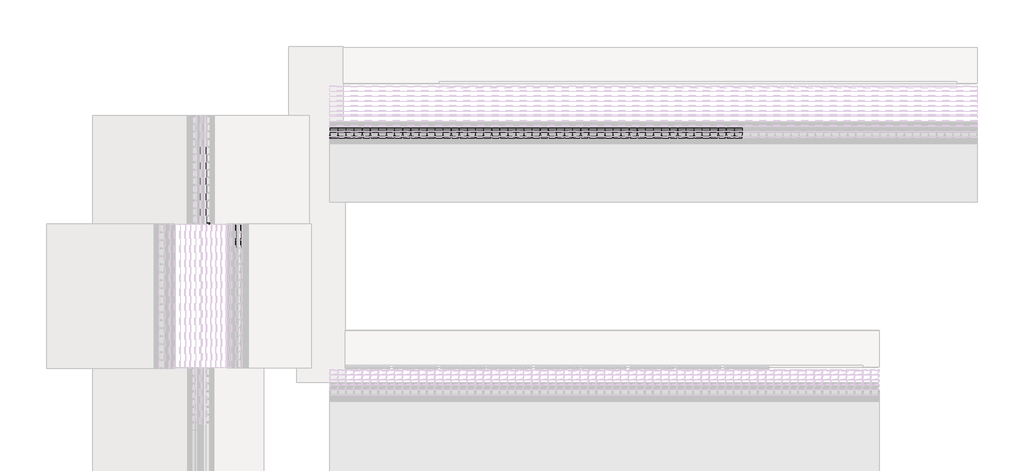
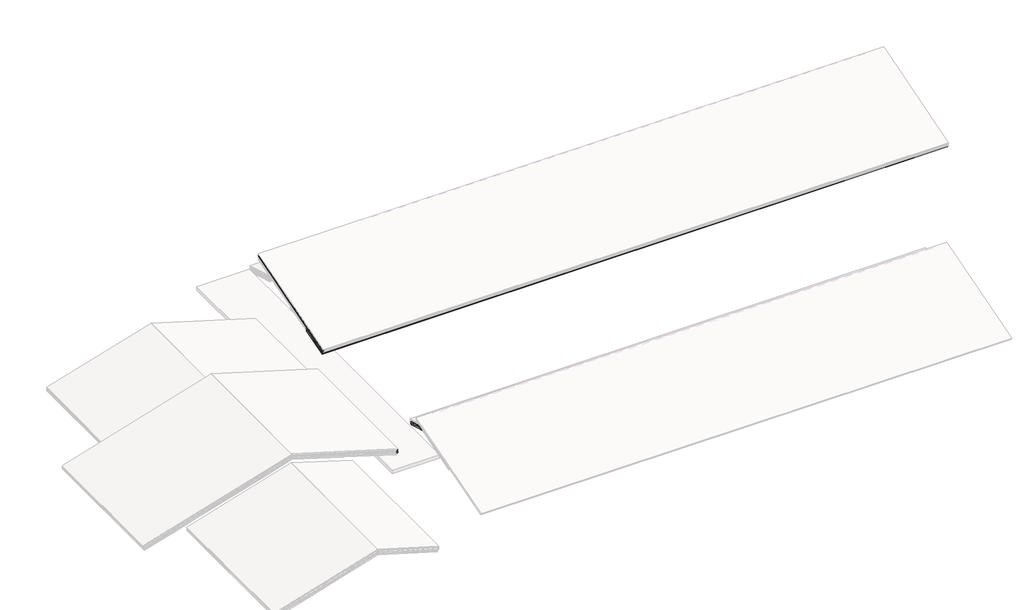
# One storey, part 42 of 57: 106 plates, 15 members.
"""IFC4 building model written with IfcOpenShell, lengths in millimetres."""

from ifc_helpers import new_model, si_unit, origin, place, context, project, spatial, transform, mapped, element, save
from components import rectangular_mullion_f14c8d41, rectangular_mullion_19773bea, rectangular_mullion_a06eaca0, rectangular_mullion_04d0059c, rectangular_mullion_caibro_31aaa4d9, rectangular_mullion_caibro_7f7f9841, empty_system_panel_vazio_e755573b, empty_system_panel_vazio_29520a4c, empty_system_panel_vazio_700aa425, empty_system_panel_vazio_8cae14d4, empty_system_panel_vazio_a4060a7b, empty_system_panel_vazio_9a4384e5, empty_system_panel_vazio_a15e6491, empty_system_panel_vazio_a828c135, empty_system_panel_vazio_0a59da35, empty_system_panel_vazio_2971b7ce

model = new_model("IFC4")

# Units and contexts
model_context = context("Model", 3, world=origin())
ifc_project = project(units=[si_unit("LENGTHUNIT", "METRE", prefix="MILLI")], contexts=[model_context])

# Site, building, storey
site = spatial("IfcSite", under=ifc_project)
building = spatial("IfcBuilding", under=site)
storey = spatial("IfcBuildingStorey", under=building, Name="Nível 2", Elevation=4100.0)

# Members
placement = place(None, origin())
rectangular_mullion_shape = rectangular_mullion_f14c8d41(model_context)
element("IfcMember", 1, ObjectType="Rectangular Mullion : Ripa", at=placement, inside=storey, context=model_context, shape_type="MappedRepresentation", body=[
    mapped(rectangular_mullion_shape, transform((1726.5285525, 28412.5318827, 3950.432489), x_axis=(0.0, 0.9578262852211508, 0.2873478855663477), y_axis=(0.0, 0.2873478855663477, -0.9578262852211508), z_axis=(-1.0, 0.0, 0.0))),
])
element("IfcMember", 2, ObjectType="Rectangular Mullion : Ripa", at=placement, inside=storey, context=model_context, shape_type="MappedRepresentation", body=[
    mapped(rectangular_mullion_shape, transform((1726.5285525, 28782.8959727, 4061.5417159), x_axis=(0.0, 0.9578262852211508, 0.2873478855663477), y_axis=(0.0, 0.2873478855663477, -0.9578262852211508), z_axis=(-1.0, 0.0, 0.0))),
])
element("IfcMember", 3, ObjectType="Rectangular Mullion : Ripa", at=placement, inside=storey, context=model_context, shape_type="MappedRepresentation", body=[
    mapped(rectangular_mullion_shape, transform((1726.5285525, 29153.2600626, 4172.6509429), x_axis=(0.0, 0.9578262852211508, 0.2873478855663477), y_axis=(0.0, 0.2873478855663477, -0.9578262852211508), z_axis=(-1.0, 0.0, 0.0))),
])
element("IfcMember", 4, ObjectType="Rectangular Mullion : Ripa", at=placement, inside=storey, context=model_context, shape_type="MappedRepresentation", body=[
    mapped(rectangular_mullion_shape, transform((1726.5285525, 29523.6241525, 4283.7601699), x_axis=(0.0, 0.9578262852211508, 0.2873478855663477), y_axis=(0.0, 0.2873478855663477, -0.9578262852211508), z_axis=(-1.0, 0.0, 0.0))),
])
element("IfcMember", 5, ObjectType="Rectangular Mullion : Ripa", at=placement, inside=storey, context=model_context, shape_type="MappedRepresentation", body=[
    mapped(rectangular_mullion_shape, transform((1726.5285525, 29893.9882424, 4394.8693969), x_axis=(0.0, 0.9578262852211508, 0.2873478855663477), y_axis=(0.0, 0.2873478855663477, -0.9578262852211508), z_axis=(-1.0, 0.0, 0.0))),
])
element("IfcMember", 6, ObjectType="Rectangular Mullion : Ripa", at=placement, inside=storey, context=model_context, shape_type="MappedRepresentation", body=[
    mapped(rectangular_mullion_shape, transform((1726.5285525, 30264.3523323, 4505.9786238), x_axis=(0.0, 0.9578262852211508, 0.2873478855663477), y_axis=(0.0, 0.2873478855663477, -0.9578262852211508), z_axis=(-1.0, 0.0, 0.0))),
])
element("IfcMember", 7, ObjectType="Rectangular Mullion : Ripa", at=placement, inside=storey, context=model_context, shape_type="MappedRepresentation", body=[
    mapped(rectangular_mullion_shape, transform((1726.5285525, 30634.7164222, 4617.0878508), x_axis=(0.0, 0.9578262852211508, 0.2873478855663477), y_axis=(0.0, 0.2873478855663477, -0.9578262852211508), z_axis=(-1.0, 0.0, 0.0))),
])
element("IfcMember", 8, ObjectType="Rectangular Mullion : Ripa", at=placement, inside=storey, context=model_context, shape_type="MappedRepresentation", body=[
    mapped(rectangular_mullion_shape, transform((1726.5285525, 31005.0805121, 4728.1970778), x_axis=(0.0, 0.9578262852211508, 0.2873478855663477), y_axis=(0.0, 0.2873478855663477, -0.9578262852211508), z_axis=(-1.0, 0.0, 0.0))),
])
element("IfcMember", 9, ObjectType="Rectangular Mullion : Ripa", at=placement, inside=storey, context=model_context, shape_type="MappedRepresentation", body=[
    mapped(rectangular_mullion_shape, transform((1726.5285525, 31375.4446021, 4839.3063048), x_axis=(0.0, 0.9578262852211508, 0.2873478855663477), y_axis=(0.0, 0.2873478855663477, -0.9578262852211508), z_axis=(-1.0, 0.0, 0.0))),
])
element("IfcMember", 10, ObjectType="Rectangular Mullion : Ripa", at=placement, inside=storey, context=model_context, shape_type="MappedRepresentation", body=[
    mapped(rectangular_mullion_shape, transform((1726.5285525, 31745.808692, 4950.4155317), x_axis=(0.0, 0.9578262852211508, 0.2873478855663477), y_axis=(0.0, 0.2873478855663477, -0.9578262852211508), z_axis=(-1.0, 0.0, 0.0))),
])
rectangular_mullion_2_shape = rectangular_mullion_19773bea(model_context)
element("IfcMember", 11, ObjectType="Rectangular Mullion : Terça", at=placement, inside=storey, context=model_context, shape_type="MappedRepresentation", body=[
    mapped(rectangular_mullion_2_shape, transform((1726.5285525, 30150.2102184, 4346.4523116), x_axis=(0.0, 0.9578262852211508, 0.2873478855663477), y_axis=(0.0, 0.2873478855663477, -0.9578262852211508), z_axis=(-1.0, 0.0, 0.0))),
])
rectangular_mullion_3_shape = rectangular_mullion_a06eaca0(model_context)
element("IfcMember", 12, ObjectType="Rectangular Mullion : Terça", at=placement, inside=storey, context=model_context, shape_type="MappedRepresentation", body=[
    mapped(rectangular_mullion_3_shape, transform((347.7937639, 26350.3088684, 3598.7844596), x_axis=(0.9578262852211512, 0.0, -0.287347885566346), y_axis=(-0.287347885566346, 0.0, -0.9578262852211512), z_axis=(0.0, 1.0, 0.0))),
])
rectangular_mullion_4_shape = rectangular_mullion_04d0059c(model_context)
element("IfcMember", 13, ObjectType="Rectangular Mullion : Ripa", at=placement, inside=storey, context=model_context, shape_type="MappedRepresentation", body=[
    mapped(rectangular_mullion_4_shape, transform((347.7937639, 26350.3088684, 3724.0681378), x_axis=(0.9578262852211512, 0.0, -0.287347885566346), y_axis=(-0.287347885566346, 0.0, -0.9578262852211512), z_axis=(0.0, 1.0, 0.0))),
])
rectangular_mullion_caibro_shape = rectangular_mullion_caibro_31aaa4d9(model_context)
element("IfcMember", 14, ObjectType="Rectangular Mullion : Caibro", at=placement, inside=storey, context=model_context, shape_type="MappedRepresentation", body=[
    mapped(rectangular_mullion_caibro_shape, transform((1726.5285525, 27994.2764786, 3824.9558677), x_axis=(-1.0, 0.0, 0.0), y_axis=(0.0, 0.2873478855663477, -0.9578262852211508), z_axis=(0.0, -0.9578262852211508, -0.2873478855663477))),
])
rectangular_mullion_caibro_2_shape = rectangular_mullion_caibro_7f7f9841(model_context)
element("IfcMember", 15, ObjectType="Rectangular Mullion : Caibro", at=placement, inside=storey, context=model_context, shape_type="MappedRepresentation", body=[
    mapped(rectangular_mullion_caibro_2_shape, transform((347.7937639, 26350.3088684, 2985.3181378), x_axis=(0.0, -1.0, 0.0), y_axis=(-0.287347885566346, 0.0, -0.9578262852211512), z_axis=(0.9578262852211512, 0.0, -0.287347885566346))),
])

# Plates
empty_system_panel_vazio_shape = empty_system_panel_vazio_e755573b(model_context)
element("IfcPlate", 16, ObjectType="Empty System Panel : Vazio", at=placement, inside=storey, context=model_context, shape_type="MappedRepresentation", body=[
    mapped(empty_system_panel_vazio_shape, transform((25686.7421022, 28042.1677928, 3839.323262), x_axis=(1.0, 0.0, 0.0), y_axis=(0.0, 0.2873478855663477, -0.9578262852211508), z_axis=(0.0, 0.9578262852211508, 0.2873478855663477))),
])
element("IfcPlate", 17, ObjectType="Empty System Panel : Vazio", at=placement, inside=storey, context=model_context, shape_type="MappedRepresentation", body=[
    mapped(empty_system_panel_vazio_shape, transform((25686.7421022, 28412.5318827, 3950.432489), x_axis=(1.0, 0.0, 0.0), y_axis=(0.0, 0.2873478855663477, -0.9578262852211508), z_axis=(0.0, 0.9578262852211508, 0.2873478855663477))),
])
element("IfcPlate", 18, ObjectType="Empty System Panel : Vazio", at=placement, inside=storey, context=model_context, shape_type="MappedRepresentation", body=[
    mapped(empty_system_panel_vazio_shape, transform((25686.7421022, 28782.8959727, 4061.5417159), x_axis=(1.0, 0.0, 0.0), y_axis=(0.0, 0.2873478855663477, -0.9578262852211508), z_axis=(0.0, 0.9578262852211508, 0.2873478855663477))),
])
empty_system_panel_vazio_2_shape = empty_system_panel_vazio_29520a4c(model_context)
element("IfcPlate", 19, ObjectType="Empty System Panel : Vazio", at=placement, inside=storey, context=model_context, shape_type="MappedRepresentation", body=[
    mapped(empty_system_panel_vazio_2_shape, transform((2050.718722, 27994.2764786, 3824.9558677), x_axis=(1.0, 0.0, 0.0), y_axis=(0.0, 0.2873478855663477, -0.9578262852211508), z_axis=(0.0, 0.9578262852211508, 0.2873478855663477))),
])
element("IfcPlate", 20, ObjectType="Empty System Panel : Vazio", at=placement, inside=storey, context=model_context, shape_type="MappedRepresentation", body=[
    mapped(empty_system_panel_vazio_2_shape, transform((2649.0990609, 27994.2764786, 3824.9558677), x_axis=(1.0, 0.0, 0.0), y_axis=(0.0, 0.2873478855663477, -0.9578262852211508), z_axis=(0.0, 0.9578262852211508, 0.2873478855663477))),
])
element("IfcPlate", 21, ObjectType="Empty System Panel : Vazio", at=placement, inside=storey, context=model_context, shape_type="MappedRepresentation", body=[
    mapped(empty_system_panel_vazio_2_shape, transform((3247.4793996, 27994.2764786, 3824.9558677), x_axis=(1.0, 0.0, 0.0), y_axis=(0.0, 0.2873478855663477, -0.9578262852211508), z_axis=(0.0, 0.9578262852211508, 0.2873478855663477))),
])
element("IfcPlate", 22, ObjectType="Empty System Panel : Vazio", at=placement, inside=storey, context=model_context, shape_type="MappedRepresentation", body=[
    mapped(empty_system_panel_vazio_2_shape, transform((3845.8597383, 27994.2764786, 3824.9558677), x_axis=(1.0, 0.0, 0.0), y_axis=(0.0, 0.2873478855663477, -0.9578262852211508), z_axis=(0.0, 0.9578262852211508, 0.2873478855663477))),
])
element("IfcPlate", 23, ObjectType="Empty System Panel : Vazio", at=placement, inside=storey, context=model_context, shape_type="MappedRepresentation", body=[
    mapped(empty_system_panel_vazio_2_shape, transform((4444.2400771, 27994.2764786, 3824.9558677), x_axis=(1.0, 0.0, 0.0), y_axis=(0.0, 0.2873478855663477, -0.9578262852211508), z_axis=(0.0, 0.9578262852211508, 0.2873478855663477))),
])
element("IfcPlate", 24, ObjectType="Empty System Panel : Vazio", at=placement, inside=storey, context=model_context, shape_type="MappedRepresentation", body=[
    mapped(empty_system_panel_vazio_2_shape, transform((5042.6204158, 27994.2764786, 3824.9558677), x_axis=(1.0, 0.0, 0.0), y_axis=(0.0, 0.2873478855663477, -0.9578262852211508), z_axis=(0.0, 0.9578262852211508, 0.2873478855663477))),
])
element("IfcPlate", 25, ObjectType="Empty System Panel : Vazio", at=placement, inside=storey, context=model_context, shape_type="MappedRepresentation", body=[
    mapped(empty_system_panel_vazio_2_shape, transform((5641.0007546, 27994.2764786, 3824.9558677), x_axis=(1.0, 0.0, 0.0), y_axis=(0.0, 0.2873478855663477, -0.9578262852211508), z_axis=(0.0, 0.9578262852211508, 0.2873478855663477))),
])
element("IfcPlate", 26, ObjectType="Empty System Panel : Vazio", at=placement, inside=storey, context=model_context, shape_type="MappedRepresentation", body=[
    mapped(empty_system_panel_vazio_2_shape, transform((6239.3810933, 27994.2764786, 3824.9558677), x_axis=(1.0, 0.0, 0.0), y_axis=(0.0, 0.2873478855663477, -0.9578262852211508), z_axis=(0.0, 0.9578262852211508, 0.2873478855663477))),
])
element("IfcPlate", 27, ObjectType="Empty System Panel : Vazio", at=placement, inside=storey, context=model_context, shape_type="MappedRepresentation", body=[
    mapped(empty_system_panel_vazio_2_shape, transform((6837.761432, 27994.2764786, 3824.9558677), x_axis=(1.0, 0.0, 0.0), y_axis=(0.0, 0.2873478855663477, -0.9578262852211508), z_axis=(0.0, 0.9578262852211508, 0.2873478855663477))),
])
element("IfcPlate", 28, ObjectType="Empty System Panel : Vazio", at=placement, inside=storey, context=model_context, shape_type="MappedRepresentation", body=[
    mapped(empty_system_panel_vazio_2_shape, transform((7436.1417708, 27994.2764786, 3824.9558677), x_axis=(1.0, 0.0, 0.0), y_axis=(0.0, 0.2873478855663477, -0.9578262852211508), z_axis=(0.0, 0.9578262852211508, 0.2873478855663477))),
])
element("IfcPlate", 29, ObjectType="Empty System Panel : Vazio", at=placement, inside=storey, context=model_context, shape_type="MappedRepresentation", body=[
    mapped(empty_system_panel_vazio_2_shape, transform((8034.5221095, 27994.2764786, 3824.9558677), x_axis=(1.0, 0.0, 0.0), y_axis=(0.0, 0.2873478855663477, -0.9578262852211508), z_axis=(0.0, 0.9578262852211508, 0.2873478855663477))),
])
element("IfcPlate", 30, ObjectType="Empty System Panel : Vazio", at=placement, inside=storey, context=model_context, shape_type="MappedRepresentation", body=[
    mapped(empty_system_panel_vazio_2_shape, transform((8632.9024482, 27994.2764786, 3824.9558677), x_axis=(1.0, 0.0, 0.0), y_axis=(0.0, 0.2873478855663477, -0.9578262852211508), z_axis=(0.0, 0.9578262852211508, 0.2873478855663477))),
])
element("IfcPlate", 31, ObjectType="Empty System Panel : Vazio", at=placement, inside=storey, context=model_context, shape_type="MappedRepresentation", body=[
    mapped(empty_system_panel_vazio_2_shape, transform((9231.282787, 27994.2764786, 3824.9558677), x_axis=(1.0, 0.0, 0.0), y_axis=(0.0, 0.2873478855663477, -0.9578262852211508), z_axis=(0.0, 0.9578262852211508, 0.2873478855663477))),
])
element("IfcPlate", 32, ObjectType="Empty System Panel : Vazio", at=placement, inside=storey, context=model_context, shape_type="MappedRepresentation", body=[
    mapped(empty_system_panel_vazio_2_shape, transform((9829.6631257, 27994.2764786, 3824.9558677), x_axis=(1.0, 0.0, 0.0), y_axis=(0.0, 0.2873478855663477, -0.9578262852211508), z_axis=(0.0, 0.9578262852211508, 0.2873478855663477))),
])
element("IfcPlate", 33, ObjectType="Empty System Panel : Vazio", at=placement, inside=storey, context=model_context, shape_type="MappedRepresentation", body=[
    mapped(empty_system_panel_vazio_2_shape, transform((10428.0434644, 27994.2764786, 3824.9558677), x_axis=(1.0, 0.0, 0.0), y_axis=(0.0, 0.2873478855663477, -0.9578262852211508), z_axis=(0.0, 0.9578262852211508, 0.2873478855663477))),
])
element("IfcPlate", 34, ObjectType="Empty System Panel : Vazio", at=placement, inside=storey, context=model_context, shape_type="MappedRepresentation", body=[
    mapped(empty_system_panel_vazio_2_shape, transform((11026.4238032, 27994.2764786, 3824.9558677), x_axis=(1.0, 0.0, 0.0), y_axis=(0.0, 0.2873478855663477, -0.9578262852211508), z_axis=(0.0, 0.9578262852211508, 0.2873478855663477))),
])
element("IfcPlate", 35, ObjectType="Empty System Panel : Vazio", at=placement, inside=storey, context=model_context, shape_type="MappedRepresentation", body=[
    mapped(empty_system_panel_vazio_2_shape, transform((11624.8041419, 27994.2764786, 3824.9558677), x_axis=(1.0, 0.0, 0.0), y_axis=(0.0, 0.2873478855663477, -0.9578262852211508), z_axis=(0.0, 0.9578262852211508, 0.2873478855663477))),
])
element("IfcPlate", 36, ObjectType="Empty System Panel : Vazio", at=placement, inside=storey, context=model_context, shape_type="MappedRepresentation", body=[
    mapped(empty_system_panel_vazio_2_shape, transform((12223.1844806, 27994.2764786, 3824.9558677), x_axis=(1.0, 0.0, 0.0), y_axis=(0.0, 0.2873478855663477, -0.9578262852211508), z_axis=(0.0, 0.9578262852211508, 0.2873478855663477))),
])
element("IfcPlate", 37, ObjectType="Empty System Panel : Vazio", at=placement, inside=storey, context=model_context, shape_type="MappedRepresentation", body=[
    mapped(empty_system_panel_vazio_2_shape, transform((12821.5648194, 27994.2764786, 3824.9558677), x_axis=(1.0, 0.0, 0.0), y_axis=(0.0, 0.2873478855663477, -0.9578262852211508), z_axis=(0.0, 0.9578262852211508, 0.2873478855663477))),
])
element("IfcPlate", 38, ObjectType="Empty System Panel : Vazio", at=placement, inside=storey, context=model_context, shape_type="MappedRepresentation", body=[
    mapped(empty_system_panel_vazio_2_shape, transform((13419.9451581, 27994.2764786, 3824.9558677), x_axis=(1.0, 0.0, 0.0), y_axis=(0.0, 0.2873478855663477, -0.9578262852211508), z_axis=(0.0, 0.9578262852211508, 0.2873478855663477))),
])
element("IfcPlate", 39, ObjectType="Empty System Panel : Vazio", at=placement, inside=storey, context=model_context, shape_type="MappedRepresentation", body=[
    mapped(empty_system_panel_vazio_2_shape, transform((14018.3254968, 27994.2764786, 3824.9558677), x_axis=(1.0, 0.0, 0.0), y_axis=(0.0, 0.2873478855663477, -0.9578262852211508), z_axis=(0.0, 0.9578262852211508, 0.2873478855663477))),
])
element("IfcPlate", 40, ObjectType="Empty System Panel : Vazio", at=placement, inside=storey, context=model_context, shape_type="MappedRepresentation", body=[
    mapped(empty_system_panel_vazio_2_shape, transform((14616.7058356, 27994.2764786, 3824.9558677), x_axis=(1.0, 0.0, 0.0), y_axis=(0.0, 0.2873478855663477, -0.9578262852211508), z_axis=(0.0, 0.9578262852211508, 0.2873478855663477))),
])
element("IfcPlate", 41, ObjectType="Empty System Panel : Vazio", at=placement, inside=storey, context=model_context, shape_type="MappedRepresentation", body=[
    mapped(empty_system_panel_vazio_2_shape, transform((15215.0861743, 27994.2764786, 3824.9558677), x_axis=(1.0, 0.0, 0.0), y_axis=(0.0, 0.2873478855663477, -0.9578262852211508), z_axis=(0.0, 0.9578262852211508, 0.2873478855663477))),
])
element("IfcPlate", 42, ObjectType="Empty System Panel : Vazio", at=placement, inside=storey, context=model_context, shape_type="MappedRepresentation", body=[
    mapped(empty_system_panel_vazio_2_shape, transform((15813.466513, 27994.2764786, 3824.9558677), x_axis=(1.0, 0.0, 0.0), y_axis=(0.0, 0.2873478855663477, -0.9578262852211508), z_axis=(0.0, 0.9578262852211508, 0.2873478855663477))),
])
element("IfcPlate", 43, ObjectType="Empty System Panel : Vazio", at=placement, inside=storey, context=model_context, shape_type="MappedRepresentation", body=[
    mapped(empty_system_panel_vazio_2_shape, transform((16411.8468518, 27994.2764786, 3824.9558677), x_axis=(1.0, 0.0, 0.0), y_axis=(0.0, 0.2873478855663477, -0.9578262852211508), z_axis=(0.0, 0.9578262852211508, 0.2873478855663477))),
])
element("IfcPlate", 44, ObjectType="Empty System Panel : Vazio", at=placement, inside=storey, context=model_context, shape_type="MappedRepresentation", body=[
    mapped(empty_system_panel_vazio_2_shape, transform((17010.2271905, 27994.2764786, 3824.9558677), x_axis=(1.0, 0.0, 0.0), y_axis=(0.0, 0.2873478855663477, -0.9578262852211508), z_axis=(0.0, 0.9578262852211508, 0.2873478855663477))),
])
element("IfcPlate", 45, ObjectType="Empty System Panel : Vazio", at=placement, inside=storey, context=model_context, shape_type="MappedRepresentation", body=[
    mapped(empty_system_panel_vazio_2_shape, transform((17608.6075292, 27994.2764786, 3824.9558677), x_axis=(1.0, 0.0, 0.0), y_axis=(0.0, 0.2873478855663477, -0.9578262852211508), z_axis=(0.0, 0.9578262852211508, 0.2873478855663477))),
])
element("IfcPlate", 46, ObjectType="Empty System Panel : Vazio", at=placement, inside=storey, context=model_context, shape_type="MappedRepresentation", body=[
    mapped(empty_system_panel_vazio_2_shape, transform((18206.987868, 27994.2764786, 3824.9558677), x_axis=(1.0, 0.0, 0.0), y_axis=(0.0, 0.2873478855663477, -0.9578262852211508), z_axis=(0.0, 0.9578262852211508, 0.2873478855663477))),
])
element("IfcPlate", 47, ObjectType="Empty System Panel : Vazio", at=placement, inside=storey, context=model_context, shape_type="MappedRepresentation", body=[
    mapped(empty_system_panel_vazio_2_shape, transform((18805.3682067, 27994.2764786, 3824.9558677), x_axis=(1.0, 0.0, 0.0), y_axis=(0.0, 0.2873478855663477, -0.9578262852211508), z_axis=(0.0, 0.9578262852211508, 0.2873478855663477))),
])
element("IfcPlate", 48, ObjectType="Empty System Panel : Vazio", at=placement, inside=storey, context=model_context, shape_type="MappedRepresentation", body=[
    mapped(empty_system_panel_vazio_2_shape, transform((19403.7485454, 27994.2764786, 3824.9558677), x_axis=(1.0, 0.0, 0.0), y_axis=(0.0, 0.2873478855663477, -0.9578262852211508), z_axis=(0.0, 0.9578262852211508, 0.2873478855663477))),
])
element("IfcPlate", 49, ObjectType="Empty System Panel : Vazio", at=placement, inside=storey, context=model_context, shape_type="MappedRepresentation", body=[
    mapped(empty_system_panel_vazio_2_shape, transform((20002.1288842, 27994.2764786, 3824.9558677), x_axis=(1.0, 0.0, 0.0), y_axis=(0.0, 0.2873478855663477, -0.9578262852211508), z_axis=(0.0, 0.9578262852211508, 0.2873478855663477))),
])
element("IfcPlate", 50, ObjectType="Empty System Panel : Vazio", at=placement, inside=storey, context=model_context, shape_type="MappedRepresentation", body=[
    mapped(empty_system_panel_vazio_2_shape, transform((20600.5092229, 27994.2764786, 3824.9558677), x_axis=(1.0, 0.0, 0.0), y_axis=(0.0, 0.2873478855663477, -0.9578262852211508), z_axis=(0.0, 0.9578262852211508, 0.2873478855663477))),
])
element("IfcPlate", 51, ObjectType="Empty System Panel : Vazio", at=placement, inside=storey, context=model_context, shape_type="MappedRepresentation", body=[
    mapped(empty_system_panel_vazio_2_shape, transform((21198.8895617, 27994.2764786, 3824.9558677), x_axis=(1.0, 0.0, 0.0), y_axis=(0.0, 0.2873478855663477, -0.9578262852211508), z_axis=(0.0, 0.9578262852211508, 0.2873478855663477))),
])
element("IfcPlate", 52, ObjectType="Empty System Panel : Vazio", at=placement, inside=storey, context=model_context, shape_type="MappedRepresentation", body=[
    mapped(empty_system_panel_vazio_2_shape, transform((21797.2699004, 27994.2764786, 3824.9558677), x_axis=(1.0, 0.0, 0.0), y_axis=(0.0, 0.2873478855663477, -0.9578262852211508), z_axis=(0.0, 0.9578262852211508, 0.2873478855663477))),
])
element("IfcPlate", 53, ObjectType="Empty System Panel : Vazio", at=placement, inside=storey, context=model_context, shape_type="MappedRepresentation", body=[
    mapped(empty_system_panel_vazio_2_shape, transform((22395.6502391, 27994.2764786, 3824.9558677), x_axis=(1.0, 0.0, 0.0), y_axis=(0.0, 0.2873478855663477, -0.9578262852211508), z_axis=(0.0, 0.9578262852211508, 0.2873478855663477))),
])
element("IfcPlate", 54, ObjectType="Empty System Panel : Vazio", at=placement, inside=storey, context=model_context, shape_type="MappedRepresentation", body=[
    mapped(empty_system_panel_vazio_2_shape, transform((22994.0305779, 27994.2764786, 3824.9558677), x_axis=(1.0, 0.0, 0.0), y_axis=(0.0, 0.2873478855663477, -0.9578262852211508), z_axis=(0.0, 0.9578262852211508, 0.2873478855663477))),
])
element("IfcPlate", 55, ObjectType="Empty System Panel : Vazio", at=placement, inside=storey, context=model_context, shape_type="MappedRepresentation", body=[
    mapped(empty_system_panel_vazio_2_shape, transform((23592.4109166, 27994.2764786, 3824.9558677), x_axis=(1.0, 0.0, 0.0), y_axis=(0.0, 0.2873478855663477, -0.9578262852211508), z_axis=(0.0, 0.9578262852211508, 0.2873478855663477))),
])
element("IfcPlate", 56, ObjectType="Empty System Panel : Vazio", at=placement, inside=storey, context=model_context, shape_type="MappedRepresentation", body=[
    mapped(empty_system_panel_vazio_2_shape, transform((24190.7912553, 27994.2764786, 3824.9558677), x_axis=(1.0, 0.0, 0.0), y_axis=(0.0, 0.2873478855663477, -0.9578262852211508), z_axis=(0.0, 0.9578262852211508, 0.2873478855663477))),
])
element("IfcPlate", 57, ObjectType="Empty System Panel : Vazio", at=placement, inside=storey, context=model_context, shape_type="MappedRepresentation", body=[
    mapped(empty_system_panel_vazio_2_shape, transform((24789.1715941, 27994.2764786, 3824.9558677), x_axis=(1.0, 0.0, 0.0), y_axis=(0.0, 0.2873478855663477, -0.9578262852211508), z_axis=(0.0, 0.9578262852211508, 0.2873478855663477))),
])
element("IfcPlate", 58, ObjectType="Empty System Panel : Vazio", at=placement, inside=storey, context=model_context, shape_type="MappedRepresentation", body=[
    mapped(empty_system_panel_vazio_2_shape, transform((25387.5519328, 27994.2764786, 3824.9558677), x_axis=(1.0, 0.0, 0.0), y_axis=(0.0, 0.2873478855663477, -0.9578262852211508), z_axis=(0.0, 0.9578262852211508, 0.2873478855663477))),
])
element("IfcPlate", 59, ObjectType="Empty System Panel : Vazio", at=placement, inside=storey, context=model_context, shape_type="MappedRepresentation", body=[
    mapped(empty_system_panel_vazio_2_shape, transform((25985.9322715, 27994.2764786, 3824.9558677), x_axis=(1.0, 0.0, 0.0), y_axis=(0.0, 0.2873478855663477, -0.9578262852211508), z_axis=(0.0, 0.9578262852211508, 0.2873478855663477))),
])
element("IfcPlate", 60, ObjectType="Empty System Panel : Vazio", at=placement, inside=storey, context=model_context, shape_type="MappedRepresentation", body=[
    mapped(empty_system_panel_vazio_2_shape, transform((26584.3126103, 27994.2764786, 3824.9558677), x_axis=(1.0, 0.0, 0.0), y_axis=(0.0, 0.2873478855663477, -0.9578262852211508), z_axis=(0.0, 0.9578262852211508, 0.2873478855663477))),
])
element("IfcPlate", 61, ObjectType="Empty System Panel : Vazio", at=placement, inside=storey, context=model_context, shape_type="MappedRepresentation", body=[
    mapped(empty_system_panel_vazio_2_shape, transform((27182.692949, 27994.2764786, 3824.9558677), x_axis=(1.0, 0.0, 0.0), y_axis=(0.0, 0.2873478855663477, -0.9578262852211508), z_axis=(0.0, 0.9578262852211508, 0.2873478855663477))),
])
element("IfcPlate", 62, ObjectType="Empty System Panel : Vazio", at=placement, inside=storey, context=model_context, shape_type="MappedRepresentation", body=[
    mapped(empty_system_panel_vazio_2_shape, transform((27781.0732877, 27994.2764786, 3824.9558677), x_axis=(1.0, 0.0, 0.0), y_axis=(0.0, 0.2873478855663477, -0.9578262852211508), z_axis=(0.0, 0.9578262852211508, 0.2873478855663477))),
])
element("IfcPlate", 63, ObjectType="Empty System Panel : Vazio", at=placement, inside=storey, context=model_context, shape_type="MappedRepresentation", body=[
    mapped(empty_system_panel_vazio_2_shape, transform((28379.4536265, 27994.2764786, 3824.9558677), x_axis=(1.0, 0.0, 0.0), y_axis=(0.0, 0.2873478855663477, -0.9578262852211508), z_axis=(0.0, 0.9578262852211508, 0.2873478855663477))),
])
element("IfcPlate", 64, ObjectType="Empty System Panel : Vazio", at=placement, inside=storey, context=model_context, shape_type="MappedRepresentation", body=[
    mapped(empty_system_panel_vazio_2_shape, transform((28977.8339652, 27994.2764786, 3824.9558677), x_axis=(1.0, 0.0, 0.0), y_axis=(0.0, 0.2873478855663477, -0.9578262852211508), z_axis=(0.0, 0.9578262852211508, 0.2873478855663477))),
])
element("IfcPlate", 65, ObjectType="Empty System Panel : Vazio", at=placement, inside=storey, context=model_context, shape_type="MappedRepresentation", body=[
    mapped(empty_system_panel_vazio_2_shape, transform((29576.2143039, 27994.2764786, 3824.9558677), x_axis=(1.0, 0.0, 0.0), y_axis=(0.0, 0.2873478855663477, -0.9578262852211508), z_axis=(0.0, 0.9578262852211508, 0.2873478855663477))),
])
element("IfcPlate", 66, ObjectType="Empty System Panel : Vazio", at=placement, inside=storey, context=model_context, shape_type="MappedRepresentation", body=[
    mapped(empty_system_panel_vazio_2_shape, transform((30174.5946427, 27994.2764786, 3824.9558677), x_axis=(1.0, 0.0, 0.0), y_axis=(0.0, 0.2873478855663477, -0.9578262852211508), z_axis=(0.0, 0.9578262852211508, 0.2873478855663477))),
])
element("IfcPlate", 67, ObjectType="Empty System Panel : Vazio", at=placement, inside=storey, context=model_context, shape_type="MappedRepresentation", body=[
    mapped(empty_system_panel_vazio_2_shape, transform((30772.9749814, 27994.2764786, 3824.9558677), x_axis=(1.0, 0.0, 0.0), y_axis=(0.0, 0.2873478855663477, -0.9578262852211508), z_axis=(0.0, 0.9578262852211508, 0.2873478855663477))),
])
element("IfcPlate", 68, ObjectType="Empty System Panel : Vazio", at=placement, inside=storey, context=model_context, shape_type="MappedRepresentation", body=[
    mapped(empty_system_panel_vazio_2_shape, transform((31371.3553201, 27994.2764786, 3824.9558677), x_axis=(1.0, 0.0, 0.0), y_axis=(0.0, 0.2873478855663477, -0.9578262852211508), z_axis=(0.0, 0.9578262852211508, 0.2873478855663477))),
])
element("IfcPlate", 69, ObjectType="Empty System Panel : Vazio", at=placement, inside=storey, context=model_context, shape_type="MappedRepresentation", body=[
    mapped(empty_system_panel_vazio_2_shape, transform((31969.7356589, 27994.2764786, 3824.9558677), x_axis=(1.0, 0.0, 0.0), y_axis=(0.0, 0.2873478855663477, -0.9578262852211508), z_axis=(0.0, 0.9578262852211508, 0.2873478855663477))),
])
empty_system_panel_vazio_3_shape = empty_system_panel_vazio_700aa425(model_context)
element("IfcPlate", 70, ObjectType="Empty System Panel : Vazio", at=placement, inside=storey, context=model_context, shape_type="MappedRepresentation", body=[
    mapped(empty_system_panel_vazio_3_shape, transform((25686.7421022, 28051.7460557, 3716.9130627), x_axis=(1.0, 0.0, 0.0), y_axis=(0.0, 0.2873478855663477, -0.9578262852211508), z_axis=(0.0, 0.9578262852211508, 0.2873478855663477))),
])
empty_system_panel_vazio_4_shape = empty_system_panel_vazio_8cae14d4(model_context)
element("IfcPlate", 71, ObjectType="Empty System Panel : Vazio", at=placement, inside=storey, context=model_context, shape_type="MappedRepresentation", body=[
    mapped(empty_system_panel_vazio_4_shape, transform((299.9024497, 30350.3088684, 2999.685532), x_axis=(0.0, 1.0, 0.0), y_axis=(-0.287347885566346, 0.0, -0.9578262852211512), z_axis=(-0.9578262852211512, 0.0, 0.287347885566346))),
])
empty_system_panel_vazio_5_shape = empty_system_panel_vazio_a4060a7b(model_context)
element("IfcPlate", 72, ObjectType="Empty System Panel : Vazio", at=placement, inside=storey, context=model_context, shape_type="MappedRepresentation", body=[
    mapped(empty_system_panel_vazio_5_shape, transform((347.7937639, 26659.2374399, 2985.3181378), x_axis=(0.0, 1.0, 0.0), y_axis=(-0.287347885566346, 0.0, -0.9578262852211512), z_axis=(-0.9578262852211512, 0.0, 0.287347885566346))),
])
element("IfcPlate", 73, ObjectType="Empty System Panel : Vazio", at=placement, inside=storey, context=model_context, shape_type="MappedRepresentation", body=[
    mapped(empty_system_panel_vazio_5_shape, transform((347.7937639, 27227.0945829, 2985.3181378), x_axis=(0.0, 1.0, 0.0), y_axis=(-0.287347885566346, 0.0, -0.9578262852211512), z_axis=(-0.9578262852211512, 0.0, 0.287347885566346))),
])
element("IfcPlate", 74, ObjectType="Empty System Panel : Vazio", at=placement, inside=storey, context=model_context, shape_type="MappedRepresentation", body=[
    mapped(empty_system_panel_vazio_5_shape, transform((347.7937639, 27794.9517257, 2985.3181378), x_axis=(0.0, 1.0, 0.0), y_axis=(-0.287347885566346, 0.0, -0.9578262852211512), z_axis=(-0.9578262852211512, 0.0, 0.287347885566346))),
])
element("IfcPlate", 75, ObjectType="Empty System Panel : Vazio", at=placement, inside=storey, context=model_context, shape_type="MappedRepresentation", body=[
    mapped(empty_system_panel_vazio_5_shape, transform((347.7937639, 28362.8088685, 2985.3181378), x_axis=(0.0, 1.0, 0.0), y_axis=(-0.287347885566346, 0.0, -0.9578262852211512), z_axis=(-0.9578262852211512, 0.0, 0.287347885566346))),
])
element("IfcPlate", 76, ObjectType="Empty System Panel : Vazio", at=placement, inside=storey, context=model_context, shape_type="MappedRepresentation", body=[
    mapped(empty_system_panel_vazio_5_shape, transform((347.7937639, 28930.6660113, 2985.3181378), x_axis=(0.0, 1.0, 0.0), y_axis=(-0.287347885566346, 0.0, -0.9578262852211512), z_axis=(-0.9578262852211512, 0.0, 0.287347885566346))),
])
element("IfcPlate", 77, ObjectType="Empty System Panel : Vazio", at=placement, inside=storey, context=model_context, shape_type="MappedRepresentation", body=[
    mapped(empty_system_panel_vazio_5_shape, transform((347.7937639, 29498.5231542, 2985.3181378), x_axis=(0.0, 1.0, 0.0), y_axis=(-0.287347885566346, 0.0, -0.9578262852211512), z_axis=(-0.9578262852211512, 0.0, 0.287347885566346))),
])
element("IfcPlate", 78, ObjectType="Empty System Panel : Vazio", at=placement, inside=storey, context=model_context, shape_type="MappedRepresentation", body=[
    mapped(empty_system_panel_vazio_5_shape, transform((347.7937639, 30066.380297, 2985.3181378), x_axis=(0.0, 1.0, 0.0), y_axis=(-0.287347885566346, 0.0, -0.9578262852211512), z_axis=(-0.9578262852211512, 0.0, 0.287347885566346))),
])
element("IfcPlate", 79, ObjectType="Empty System Panel : Vazio", at=placement, inside=storey, context=model_context, shape_type="MappedRepresentation", body=[
    mapped(empty_system_panel_vazio_5_shape, transform((347.7937639, 30634.2374398, 2985.3181378), x_axis=(0.0, 1.0, 0.0), y_axis=(-0.287347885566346, 0.0, -0.9578262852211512), z_axis=(-0.9578262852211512, 0.0, 0.287347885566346))),
])
element("IfcPlate", 80, ObjectType="Empty System Panel : Vazio", at=placement, inside=storey, context=model_context, shape_type="MappedRepresentation", body=[
    mapped(empty_system_panel_vazio_5_shape, transform((347.7937639, 31202.0945826, 2985.3181378), x_axis=(0.0, 1.0, 0.0), y_axis=(-0.287347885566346, 0.0, -0.9578262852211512), z_axis=(-0.9578262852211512, 0.0, 0.287347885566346))),
])
element("IfcPlate", 81, ObjectType="Empty System Panel : Vazio", at=placement, inside=storey, context=model_context, shape_type="MappedRepresentation", body=[
    mapped(empty_system_panel_vazio_5_shape, transform((347.7937639, 31769.9517254, 2985.3181378), x_axis=(0.0, 1.0, 0.0), y_axis=(-0.287347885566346, 0.0, -0.9578262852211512), z_axis=(-0.9578262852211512, 0.0, 0.287347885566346))),
])
empty_system_panel_vazio_6_shape = empty_system_panel_vazio_9a4384e5(model_context)
element("IfcPlate", 82, ObjectType="Empty System Panel : Vazio", at=placement, inside=storey, context=model_context, shape_type="MappedRepresentation", body=[
    mapped(empty_system_panel_vazio_6_shape, transform((290.3241868, 30350.3088684, 2877.2753328), x_axis=(0.0, 1.0, 0.0), y_axis=(-0.287347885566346, 0.0, -0.9578262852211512), z_axis=(-0.9578262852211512, 0.0, 0.287347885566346))),
])
empty_system_panel_vazio_7_shape = empty_system_panel_vazio_a15e6491(model_context)
element("IfcPlate", 83, ObjectType="Empty System Panel : Vazio", at=placement, inside=storey, context=model_context, shape_type="MappedRepresentation", body=[
    mapped(empty_system_panel_vazio_7_shape, transform((347.7937639, 24851.6785766, 3724.0681378), x_axis=(0.0, 1.0, 0.0), y_axis=(-0.287347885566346, 0.0, -0.9578262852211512), z_axis=(-0.9578262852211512, 0.0, 0.287347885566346))),
])
element("IfcPlate", 84, ObjectType="Empty System Panel : Vazio", at=placement, inside=storey, context=model_context, shape_type="MappedRepresentation", body=[
    mapped(empty_system_panel_vazio_7_shape, transform((347.7937639, 25441.1306932, 3724.0681378), x_axis=(0.0, 1.0, 0.0), y_axis=(-0.287347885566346, 0.0, -0.9578262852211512), z_axis=(-0.9578262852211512, 0.0, 0.287347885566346))),
])
element("IfcPlate", 85, ObjectType="Empty System Panel : Vazio", at=placement, inside=storey, context=model_context, shape_type="MappedRepresentation", body=[
    mapped(empty_system_panel_vazio_7_shape, transform((347.7937639, 26030.5828099, 3724.0681378), x_axis=(0.0, 1.0, 0.0), y_axis=(-0.287347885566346, 0.0, -0.9578262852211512), z_axis=(-0.9578262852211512, 0.0, 0.287347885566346))),
])
empty_system_panel_vazio_8_shape = empty_system_panel_vazio_a828c135(model_context)
element("IfcPlate", 86, ObjectType="Empty System Panel : Vazio", at=placement, inside=storey, context=model_context, shape_type="MappedRepresentation", body=[
    mapped(empty_system_panel_vazio_8_shape, transform((22639.0291078, 18364.560145, 3632.9878308), x_axis=(-1.0, 0.0, 0.0), y_axis=(0.0, -0.2873478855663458, -0.9578262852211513), z_axis=(0.0, -0.9578262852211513, 0.2873478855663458))),
])
element("IfcPlate", 87, ObjectType="Empty System Panel : Vazio", at=placement, inside=storey, context=model_context, shape_type="MappedRepresentation", body=[
    mapped(empty_system_panel_vazio_8_shape, transform((22639.0291078, 17994.1952417, 3744.0973018), x_axis=(-1.0, 0.0, 0.0), y_axis=(0.0, -0.2873478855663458, -0.9578262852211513), z_axis=(0.0, -0.9578262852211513, 0.2873478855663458))),
])
element("IfcPlate", 88, ObjectType="Empty System Panel : Vazio", at=placement, inside=storey, context=model_context, shape_type="MappedRepresentation", body=[
    mapped(empty_system_panel_vazio_8_shape, transform((22639.0291078, 17623.8303384, 3855.2067728), x_axis=(-1.0, 0.0, 0.0), y_axis=(0.0, -0.2873478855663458, -0.9578262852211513), z_axis=(0.0, -0.9578262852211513, 0.2873478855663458))),
])
element("IfcPlate", 89, ObjectType="Empty System Panel : Vazio", at=placement, inside=storey, context=model_context, shape_type="MappedRepresentation", body=[
    mapped(empty_system_panel_vazio_8_shape, transform((22639.0291078, 17253.4654352, 3966.3162438), x_axis=(-1.0, 0.0, 0.0), y_axis=(0.0, -0.2873478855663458, -0.9578262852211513), z_axis=(0.0, -0.9578262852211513, 0.2873478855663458))),
])
element("IfcPlate", 90, ObjectType="Empty System Panel : Vazio", at=placement, inside=storey, context=model_context, shape_type="MappedRepresentation", body=[
    mapped(empty_system_panel_vazio_8_shape, transform((22639.0291078, 16883.1005319, 4077.4257148), x_axis=(-1.0, 0.0, 0.0), y_axis=(0.0, -0.2873478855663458, -0.9578262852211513), z_axis=(0.0, -0.9578262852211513, 0.2873478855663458))),
])
element("IfcPlate", 91, ObjectType="Empty System Panel : Vazio", at=placement, inside=storey, context=model_context, shape_type="MappedRepresentation", body=[
    mapped(empty_system_panel_vazio_8_shape, transform((22639.0291078, 16512.7356287, 4188.5351857), x_axis=(-1.0, 0.0, 0.0), y_axis=(0.0, -0.2873478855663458, -0.9578262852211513), z_axis=(0.0, -0.9578262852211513, 0.2873478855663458))),
])
element("IfcPlate", 92, ObjectType="Empty System Panel : Vazio", at=placement, inside=storey, context=model_context, shape_type="MappedRepresentation", body=[
    mapped(empty_system_panel_vazio_8_shape, transform((22639.0291078, 16142.3707254, 4299.6446567), x_axis=(-1.0, 0.0, 0.0), y_axis=(0.0, -0.2873478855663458, -0.9578262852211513), z_axis=(0.0, -0.9578262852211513, 0.2873478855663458))),
])
empty_system_panel_vazio_9_shape = empty_system_panel_vazio_0a59da35(model_context)
element("IfcPlate", 93, ObjectType="Empty System Panel : Vazio", at=placement, inside=storey, context=model_context, shape_type="MappedRepresentation", body=[
    mapped(empty_system_panel_vazio_9_shape, transform((31897.9308836, 18413.2710336, 3618.3745643), x_axis=(-1.0, 0.0, 0.0), y_axis=(0.0, -0.2873478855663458, -0.9578262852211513), z_axis=(0.0, -0.9578262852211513, 0.2873478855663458))),
])
element("IfcPlate", 94, ObjectType="Empty System Panel : Vazio", at=placement, inside=storey, context=model_context, shape_type="MappedRepresentation", body=[
    mapped(empty_system_panel_vazio_9_shape, transform((31300.5823819, 18413.2710336, 3618.3745643), x_axis=(-1.0, 0.0, 0.0), y_axis=(0.0, -0.2873478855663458, -0.9578262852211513), z_axis=(0.0, -0.9578262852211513, 0.2873478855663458))),
])
element("IfcPlate", 95, ObjectType="Empty System Panel : Vazio", at=placement, inside=storey, context=model_context, shape_type="MappedRepresentation", body=[
    mapped(empty_system_panel_vazio_9_shape, transform((30703.2338803, 18413.2710336, 3618.3745643), x_axis=(-1.0, 0.0, 0.0), y_axis=(0.0, -0.2873478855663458, -0.9578262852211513), z_axis=(0.0, -0.9578262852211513, 0.2873478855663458))),
])
element("IfcPlate", 96, ObjectType="Empty System Panel : Vazio", at=placement, inside=storey, context=model_context, shape_type="MappedRepresentation", body=[
    mapped(empty_system_panel_vazio_9_shape, transform((30105.8853786, 18413.2710336, 3618.3745643), x_axis=(-1.0, 0.0, 0.0), y_axis=(0.0, -0.2873478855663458, -0.9578262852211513), z_axis=(0.0, -0.9578262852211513, 0.2873478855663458))),
])
element("IfcPlate", 97, ObjectType="Empty System Panel : Vazio", at=placement, inside=storey, context=model_context, shape_type="MappedRepresentation", body=[
    mapped(empty_system_panel_vazio_9_shape, transform((29508.5368769, 18413.2710336, 3618.3745643), x_axis=(-1.0, 0.0, 0.0), y_axis=(0.0, -0.2873478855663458, -0.9578262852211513), z_axis=(0.0, -0.9578262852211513, 0.2873478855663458))),
])
element("IfcPlate", 98, ObjectType="Empty System Panel : Vazio", at=placement, inside=storey, context=model_context, shape_type="MappedRepresentation", body=[
    mapped(empty_system_panel_vazio_9_shape, transform((28911.1883753, 18413.2710336, 3618.3745643), x_axis=(-1.0, 0.0, 0.0), y_axis=(0.0, -0.2873478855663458, -0.9578262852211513), z_axis=(0.0, -0.9578262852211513, 0.2873478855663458))),
])
element("IfcPlate", 99, ObjectType="Empty System Panel : Vazio", at=placement, inside=storey, context=model_context, shape_type="MappedRepresentation", body=[
    mapped(empty_system_panel_vazio_9_shape, transform((28313.8398736, 18413.2710336, 3618.3745643), x_axis=(-1.0, 0.0, 0.0), y_axis=(0.0, -0.2873478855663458, -0.9578262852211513), z_axis=(0.0, -0.9578262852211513, 0.2873478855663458))),
])
element("IfcPlate", 100, ObjectType="Empty System Panel : Vazio", at=placement, inside=storey, context=model_context, shape_type="MappedRepresentation", body=[
    mapped(empty_system_panel_vazio_9_shape, transform((27716.4913719, 18413.2710336, 3618.3745643), x_axis=(-1.0, 0.0, 0.0), y_axis=(0.0, -0.2873478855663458, -0.9578262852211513), z_axis=(0.0, -0.9578262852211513, 0.2873478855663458))),
])
element("IfcPlate", 101, ObjectType="Empty System Panel : Vazio", at=placement, inside=storey, context=model_context, shape_type="MappedRepresentation", body=[
    mapped(empty_system_panel_vazio_9_shape, transform((27119.1428703, 18413.2710336, 3618.3745643), x_axis=(-1.0, 0.0, 0.0), y_axis=(0.0, -0.2873478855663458, -0.9578262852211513), z_axis=(0.0, -0.9578262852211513, 0.2873478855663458))),
])
element("IfcPlate", 102, ObjectType="Empty System Panel : Vazio", at=placement, inside=storey, context=model_context, shape_type="MappedRepresentation", body=[
    mapped(empty_system_panel_vazio_9_shape, transform((26521.7943686, 18413.2710336, 3618.3745643), x_axis=(-1.0, 0.0, 0.0), y_axis=(0.0, -0.2873478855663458, -0.9578262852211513), z_axis=(0.0, -0.9578262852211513, 0.2873478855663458))),
])
element("IfcPlate", 103, ObjectType="Empty System Panel : Vazio", at=placement, inside=storey, context=model_context, shape_type="MappedRepresentation", body=[
    mapped(empty_system_panel_vazio_9_shape, transform((25924.4458669, 18413.2710336, 3618.3745643), x_axis=(-1.0, 0.0, 0.0), y_axis=(0.0, -0.2873478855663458, -0.9578262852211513), z_axis=(0.0, -0.9578262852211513, 0.2873478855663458))),
])
element("IfcPlate", 104, ObjectType="Empty System Panel : Vazio", at=placement, inside=storey, context=model_context, shape_type="MappedRepresentation", body=[
    mapped(empty_system_panel_vazio_9_shape, transform((25327.0973653, 18413.2710336, 3618.3745643), x_axis=(-1.0, 0.0, 0.0), y_axis=(0.0, -0.2873478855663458, -0.9578262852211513), z_axis=(0.0, -0.9578262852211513, 0.2873478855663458))),
])
element("IfcPlate", 105, ObjectType="Empty System Panel : Vazio", at=placement, inside=storey, context=model_context, shape_type="MappedRepresentation", body=[
    mapped(empty_system_panel_vazio_9_shape, transform((24729.7488636, 18413.2710336, 3618.3745643), x_axis=(-1.0, 0.0, 0.0), y_axis=(0.0, -0.2873478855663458, -0.9578262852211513), z_axis=(0.0, -0.9578262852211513, 0.2873478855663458))),
])
element("IfcPlate", 106, ObjectType="Empty System Panel : Vazio", at=placement, inside=storey, context=model_context, shape_type="MappedRepresentation", body=[
    mapped(empty_system_panel_vazio_9_shape, transform((24132.4003619, 18413.2710336, 3618.3745643), x_axis=(-1.0, 0.0, 0.0), y_axis=(0.0, -0.2873478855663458, -0.9578262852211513), z_axis=(0.0, -0.9578262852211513, 0.2873478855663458))),
])
element("IfcPlate", 107, ObjectType="Empty System Panel : Vazio", at=placement, inside=storey, context=model_context, shape_type="MappedRepresentation", body=[
    mapped(empty_system_panel_vazio_9_shape, transform((23535.0518603, 18413.2710336, 3618.3745643), x_axis=(-1.0, 0.0, 0.0), y_axis=(0.0, -0.2873478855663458, -0.9578262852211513), z_axis=(0.0, -0.9578262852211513, 0.2873478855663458))),
])
element("IfcPlate", 108, ObjectType="Empty System Panel : Vazio", at=placement, inside=storey, context=model_context, shape_type="MappedRepresentation", body=[
    mapped(empty_system_panel_vazio_9_shape, transform((22937.7033586, 18413.2710336, 3618.3745643), x_axis=(-1.0, 0.0, 0.0), y_axis=(0.0, -0.2873478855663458, -0.9578262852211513), z_axis=(0.0, -0.9578262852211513, 0.2873478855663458))),
])
element("IfcPlate", 109, ObjectType="Empty System Panel : Vazio", at=placement, inside=storey, context=model_context, shape_type="MappedRepresentation", body=[
    mapped(empty_system_panel_vazio_9_shape, transform((22340.3548569, 18413.2710336, 3618.3745643), x_axis=(-1.0, 0.0, 0.0), y_axis=(0.0, -0.2873478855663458, -0.9578262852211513), z_axis=(0.0, -0.9578262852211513, 0.2873478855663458))),
])
element("IfcPlate", 110, ObjectType="Empty System Panel : Vazio", at=placement, inside=storey, context=model_context, shape_type="MappedRepresentation", body=[
    mapped(empty_system_panel_vazio_9_shape, transform((21743.0063553, 18413.2710336, 3618.3745643), x_axis=(-1.0, 0.0, 0.0), y_axis=(0.0, -0.2873478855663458, -0.9578262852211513), z_axis=(0.0, -0.9578262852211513, 0.2873478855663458))),
])
element("IfcPlate", 111, ObjectType="Empty System Panel : Vazio", at=placement, inside=storey, context=model_context, shape_type="MappedRepresentation", body=[
    mapped(empty_system_panel_vazio_9_shape, transform((21145.6578536, 18413.2710336, 3618.3745643), x_axis=(-1.0, 0.0, 0.0), y_axis=(0.0, -0.2873478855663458, -0.9578262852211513), z_axis=(0.0, -0.9578262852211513, 0.2873478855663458))),
])
element("IfcPlate", 112, ObjectType="Empty System Panel : Vazio", at=placement, inside=storey, context=model_context, shape_type="MappedRepresentation", body=[
    mapped(empty_system_panel_vazio_9_shape, transform((20548.3093519, 18413.2710336, 3618.3745643), x_axis=(-1.0, 0.0, 0.0), y_axis=(0.0, -0.2873478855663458, -0.9578262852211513), z_axis=(0.0, -0.9578262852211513, 0.2873478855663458))),
])
element("IfcPlate", 113, ObjectType="Empty System Panel : Vazio", at=placement, inside=storey, context=model_context, shape_type="MappedRepresentation", body=[
    mapped(empty_system_panel_vazio_9_shape, transform((19950.9608503, 18413.2710336, 3618.3745643), x_axis=(-1.0, 0.0, 0.0), y_axis=(0.0, -0.2873478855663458, -0.9578262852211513), z_axis=(0.0, -0.9578262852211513, 0.2873478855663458))),
])
element("IfcPlate", 114, ObjectType="Empty System Panel : Vazio", at=placement, inside=storey, context=model_context, shape_type="MappedRepresentation", body=[
    mapped(empty_system_panel_vazio_9_shape, transform((19353.6123486, 18413.2710336, 3618.3745643), x_axis=(-1.0, 0.0, 0.0), y_axis=(0.0, -0.2873478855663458, -0.9578262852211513), z_axis=(0.0, -0.9578262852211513, 0.2873478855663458))),
])
element("IfcPlate", 115, ObjectType="Empty System Panel : Vazio", at=placement, inside=storey, context=model_context, shape_type="MappedRepresentation", body=[
    mapped(empty_system_panel_vazio_9_shape, transform((18756.2638469, 18413.2710336, 3618.3745643), x_axis=(-1.0, 0.0, 0.0), y_axis=(0.0, -0.2873478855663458, -0.9578262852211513), z_axis=(0.0, -0.9578262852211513, 0.2873478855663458))),
])
element("IfcPlate", 116, ObjectType="Empty System Panel : Vazio", at=placement, inside=storey, context=model_context, shape_type="MappedRepresentation", body=[
    mapped(empty_system_panel_vazio_9_shape, transform((18158.9153453, 18413.2710336, 3618.3745643), x_axis=(-1.0, 0.0, 0.0), y_axis=(0.0, -0.2873478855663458, -0.9578262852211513), z_axis=(0.0, -0.9578262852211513, 0.2873478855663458))),
])
element("IfcPlate", 117, ObjectType="Empty System Panel : Vazio", at=placement, inside=storey, context=model_context, shape_type="MappedRepresentation", body=[
    mapped(empty_system_panel_vazio_9_shape, transform((17561.5668436, 18413.2710336, 3618.3745643), x_axis=(-1.0, 0.0, 0.0), y_axis=(0.0, -0.2873478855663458, -0.9578262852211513), z_axis=(0.0, -0.9578262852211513, 0.2873478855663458))),
])
element("IfcPlate", 118, ObjectType="Empty System Panel : Vazio", at=placement, inside=storey, context=model_context, shape_type="MappedRepresentation", body=[
    mapped(empty_system_panel_vazio_9_shape, transform((16964.2183419, 18413.2710336, 3618.3745643), x_axis=(-1.0, 0.0, 0.0), y_axis=(0.0, -0.2873478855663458, -0.9578262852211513), z_axis=(0.0, -0.9578262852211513, 0.2873478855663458))),
])
element("IfcPlate", 119, ObjectType="Empty System Panel : Vazio", at=placement, inside=storey, context=model_context, shape_type="MappedRepresentation", body=[
    mapped(empty_system_panel_vazio_9_shape, transform((16366.8698403, 18413.2710336, 3618.3745643), x_axis=(-1.0, 0.0, 0.0), y_axis=(0.0, -0.2873478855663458, -0.9578262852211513), z_axis=(0.0, -0.9578262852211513, 0.2873478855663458))),
])
empty_system_panel_vazio_10_shape = empty_system_panel_vazio_2971b7ce(model_context)
element("IfcPlate", 120, ObjectType="Empty System Panel : Vazio", at=placement, inside=storey, context=model_context, shape_type="MappedRepresentation", body=[
    mapped(empty_system_panel_vazio_10_shape, transform((22639.0291078, 18355.8014565, 3513.2194706), x_axis=(-1.0, 0.0, 0.0), y_axis=(0.0, -0.2873478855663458, -0.9578262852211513), z_axis=(0.0, -0.9578262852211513, 0.2873478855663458))),
])
element("IfcPlate", 121, ObjectType="Empty System Panel : Vazio", at=placement, inside=storey, context=model_context, shape_type="MappedRepresentation", body=[
    mapped(empty_system_panel_vazio_10_shape, transform((22639.0291078, 17063.9036393, 3900.7888158), x_axis=(-1.0, 0.0, 0.0), y_axis=(0.0, -0.2873478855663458, -0.9578262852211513), z_axis=(0.0, -0.9578262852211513, 0.2873478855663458))),
])

save(model, "model.ifc")
